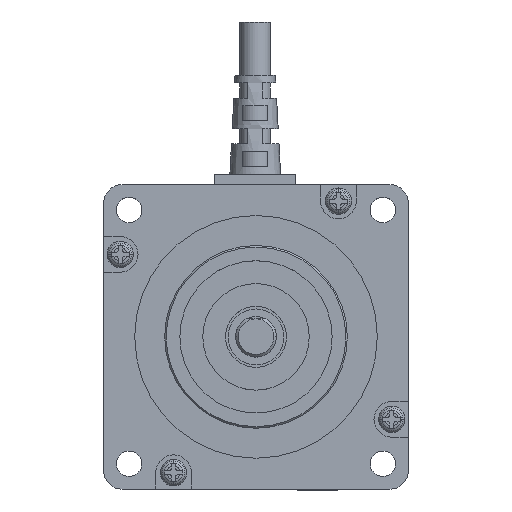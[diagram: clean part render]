
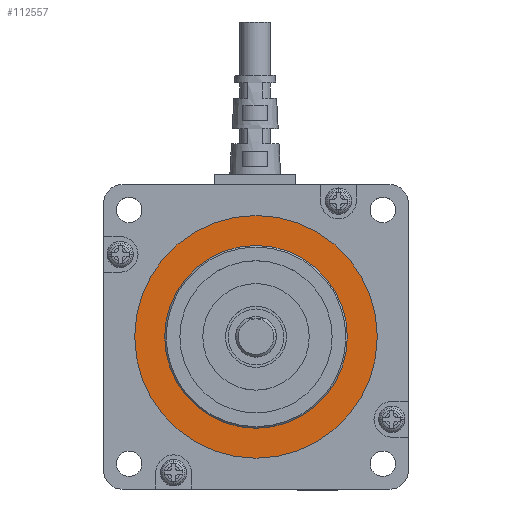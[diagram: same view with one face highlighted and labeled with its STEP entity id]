
A CAD part, top view. The second image highlights one B-rep face of the part: STEP entity #112557.
In plain terms, the highlighted planar face has unit normal (0, 0, 1).
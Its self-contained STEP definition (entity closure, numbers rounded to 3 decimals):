
#70 = VERTEX_POINT ( 'NONE', #72460 ) ;
#332 = CARTESIAN_POINT ( 'NONE',  ( -10.091, 12.795, -5.6 ) ) ;
#2779 = VERTEX_POINT ( 'NONE', #135777 ) ;
#6126 = PLANE ( 'NONE',  #87763 ) ;
#9710 = CIRCLE ( 'NONE', #124176, 18. ) ;
#11228 = CARTESIAN_POINT ( 'NONE',  ( -10.091, 12.795, -5.6 ) ) ;
#11255 = DIRECTION ( 'NONE',  ( 1., 0., 0. ) ) ;
#11365 = CARTESIAN_POINT ( 'NONE',  ( -10.091, 12.795, -5.6 ) ) ;
#22122 = DIRECTION ( 'NONE',  ( 1., 0., 0. ) ) ;
#22261 = DIRECTION ( 'NONE',  ( 1., 0., 0. ) ) ;
#24029 = EDGE_CURVE ( 'NONE', #69675, #70, #107532, .T. ) ;
#24905 = DIRECTION ( 'NONE',  ( 0., 0., 1. ) ) ;
#31522 = CARTESIAN_POINT ( 'NONE',  ( -33.995, 12.795, -5.6 ) ) ;
#37858 = VERTEX_POINT ( 'NONE', #31522 ) ;
#40287 = EDGE_CURVE ( 'NONE', #2779, #37858, #100364, .T. ) ;
#46036 = CARTESIAN_POINT ( 'NONE',  ( 7.909, 12.795, -5.6 ) ) ;
#47425 = FACE_OUTER_BOUND ( 'NONE', #88495, .T. ) ;
#49744 = DIRECTION ( 'NONE',  ( 1., 0., 0. ) ) ;
#66322 = AXIS2_PLACEMENT_3D ( 'NONE', #332, #76195, #11255 ) ;
#69675 = VERTEX_POINT ( 'NONE', #46036 ) ;
#72460 = CARTESIAN_POINT ( 'NONE',  ( -28.091, 12.795, -5.6 ) ) ;
#76195 = DIRECTION ( 'NONE',  ( 0., 0., 1. ) ) ;
#76369 = ORIENTED_EDGE ( 'NONE', *, *, #24029, .F. ) ;
#81990 = CARTESIAN_POINT ( 'NONE',  ( -10.091, 12.795, -5.6 ) ) ;
#86398 = ORIENTED_EDGE ( 'NONE', *, *, #40287, .T. ) ;
#87049 = DIRECTION ( 'NONE',  ( 0., 0., 1. ) ) ;
#87180 = DIRECTION ( 'NONE',  ( 0., 0., 1. ) ) ;
#87763 = AXIS2_PLACEMENT_3D ( 'NONE', #81990, #114722, #49744 ) ;
#88495 = EDGE_LOOP ( 'NONE', ( #86398, #137700 ) ) ;
#89873 = CARTESIAN_POINT ( 'NONE',  ( -10.091, 12.795, -5.6 ) ) ;
#91508 = ORIENTED_EDGE ( 'NONE', *, *, #138149, .F. ) ;
#92530 = EDGE_CURVE ( 'NONE', #37858, #2779, #98823, .T. ) ;
#98823 = CIRCLE ( 'NONE', #125483, 23.904 ) ;
#100364 = CIRCLE ( 'NONE', #66322, 23.904 ) ;
#100667 = EDGE_LOOP ( 'NONE', ( #91508, #76369 ) ) ;
#100756 = DIRECTION ( 'NONE',  ( 1., 0., 0. ) ) ;
#105132 = FACE_BOUND ( 'NONE', #100667, .T. ) ;
#107532 = CIRCLE ( 'NONE', #128988, 18. ) ;
#112557 = ADVANCED_FACE ( 'NONE', ( #105132, #47425 ), #6126, .T. ) ;
#114722 = DIRECTION ( 'NONE',  ( 0., 0., 1. ) ) ;
#124176 = AXIS2_PLACEMENT_3D ( 'NONE', #11228, #87049, #22122 ) ;
#125483 = AXIS2_PLACEMENT_3D ( 'NONE', #11365, #87180, #22261 ) ;
#128988 = AXIS2_PLACEMENT_3D ( 'NONE', #89873, #24905, #100756 ) ;
#135777 = CARTESIAN_POINT ( 'NONE',  ( 13.814, 12.795, -5.6 ) ) ;
#137700 = ORIENTED_EDGE ( 'NONE', *, *, #92530, .T. ) ;
#138149 = EDGE_CURVE ( 'NONE', #70, #69675, #9710, .T. ) ;
